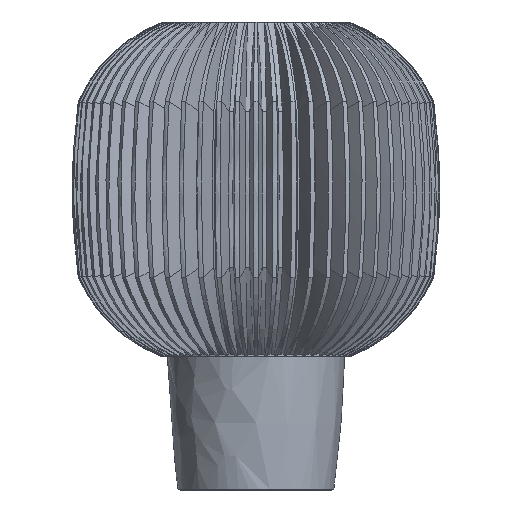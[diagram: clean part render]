
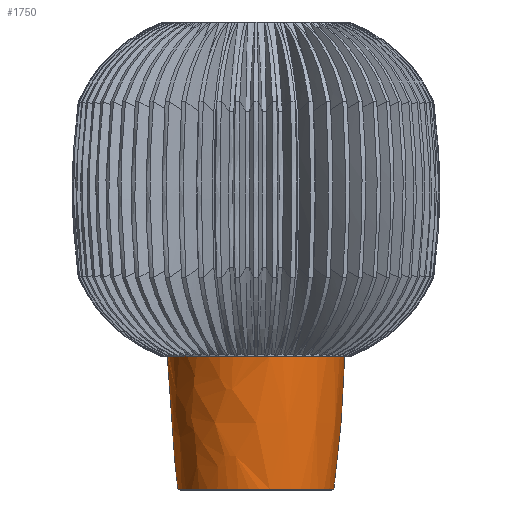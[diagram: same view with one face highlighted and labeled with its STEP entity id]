
A CAD part, front view. The second image highlights one B-rep face of the part: STEP entity #1750.
In plain terms, the highlighted free-form (B-spline) face has degree [2, 2] with [3, 5] control points.
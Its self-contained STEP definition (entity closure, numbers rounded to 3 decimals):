
#1750=ADVANCED_FACE('',(#3682),#27537,.T.);
#3682=FACE_OUTER_BOUND('',#5663,.T.);
#5663=EDGE_LOOP('',(#13746,#13747,#13748,#13749,#13750,#13751));
#13746=ORIENTED_EDGE('',*,*,#19165,.T.);
#13747=ORIENTED_EDGE('',*,*,#19159,.T.);
#13748=ORIENTED_EDGE('',*,*,#19156,.T.);
#13749=ORIENTED_EDGE('',*,*,#19158,.T.);
#13750=ORIENTED_EDGE('',*,*,#19166,.F.);
#13751=ORIENTED_EDGE('',*,*,#19164,.F.);
#19156=EDGE_CURVE('',#26856,#26857,#20153,.T.);
#19158=EDGE_CURVE('',#26857,#26855,#20154,.T.);
#19159=EDGE_CURVE('',#26854,#26856,#20155,.T.);
#19164=EDGE_CURVE('',#26860,#26861,#20159,.T.);
#19165=EDGE_CURVE('',#26860,#26854,#20160,.T.);
#19166=EDGE_CURVE('',#26861,#26855,#20161,.T.);
#20153=(
BOUNDED_CURVE()
B_SPLINE_CURVE(3,(#79256,#79257,#79258,#79259,#79260,#79261,#79262,#79263,
#79264,#79265,#79266,#79267,#79268,#79269,#79270,#79271,#79272,#79273,#79274,
#79275,#79276),.UNSPECIFIED.,.F.,.F.)
B_SPLINE_CURVE_WITH_KNOTS((4,2,3,2,3,2,3,2,4),(0.,1.766,3.53,
5.253,6.977,8.64,10.303,11.935,
13.567),.UNSPECIFIED.)
CURVE()
GEOMETRIC_REPRESENTATION_ITEM()
RATIONAL_B_SPLINE_CURVE((1.,1.,1.,1.,1.,1.,1.,1.,1.,1.,1.,1.,1.,1.,1.,1.,
1.,1.,1.,1.,1.))
REPRESENTATION_ITEM('')
);
#20154=(
BOUNDED_CURVE()
B_SPLINE_CURVE(2,(#79298,#79299,#79300),.UNSPECIFIED.,.F.,.F.)
B_SPLINE_CURVE_WITH_KNOTS((3,3),(6401.172,6412.015),
 .UNSPECIFIED.)
CURVE()
GEOMETRIC_REPRESENTATION_ITEM()
RATIONAL_B_SPLINE_CURVE((1.,1.,1.))
REPRESENTATION_ITEM('')
);
#20155=(
BOUNDED_CURVE()
B_SPLINE_CURVE(2,(#79301,#79302,#79303),.UNSPECIFIED.,.F.,.F.)
B_SPLINE_CURVE_WITH_KNOTS((3,3),(6301.927,6392.512),
 .UNSPECIFIED.)
CURVE()
GEOMETRIC_REPRESENTATION_ITEM()
RATIONAL_B_SPLINE_CURVE((1.,0.999,1.))
REPRESENTATION_ITEM('')
);
#20159=(
BOUNDED_CURVE()
B_SPLINE_CURVE(2,(#79320,#79321,#79322),.UNSPECIFIED.,.F.,.F.)
B_SPLINE_CURVE_WITH_KNOTS((3,3),(6301.927,6412.015),
 .UNSPECIFIED.)
CURVE()
GEOMETRIC_REPRESENTATION_ITEM()
RATIONAL_B_SPLINE_CURVE((1.,0.999,1.))
REPRESENTATION_ITEM('')
);
#20160=(
BOUNDED_CURVE()
B_SPLINE_CURVE(2,(#79323,#79324,#79325,#79326,#79327),.UNSPECIFIED.,.F.,
 .F.)
B_SPLINE_CURVE_WITH_KNOTS((3,2,3),(-230.737,-115.369,
0.),.UNSPECIFIED.)
CURVE()
GEOMETRIC_REPRESENTATION_ITEM()
RATIONAL_B_SPLINE_CURVE((1.,0.707,1.,0.707,
1.))
REPRESENTATION_ITEM('')
);
#20161=(
BOUNDED_CURVE()
B_SPLINE_CURVE(2,(#79328,#79329,#79330,#79331,#79332),.UNSPECIFIED.,.F.,
 .F.)
B_SPLINE_CURVE_WITH_KNOTS((3,2,3),(-230.737,-115.369,
0.),.UNSPECIFIED.)
CURVE()
GEOMETRIC_REPRESENTATION_ITEM()
RATIONAL_B_SPLINE_CURVE((1.,0.707,1.,0.707,1.))
REPRESENTATION_ITEM('')
);
#26854=VERTEX_POINT('',#79235);
#26855=VERTEX_POINT('',#79236);
#26856=VERTEX_POINT('',#79237);
#26857=VERTEX_POINT('',#79238);
#26860=VERTEX_POINT('',#79241);
#26861=VERTEX_POINT('',#79242);
#27537=(
BOUNDED_SURFACE()
B_SPLINE_SURFACE(2,2,((#79164,#79165,#79166,#79167,#79168),(#79169,#79170,
#79171,#79172,#79173),(#79174,#79175,#79176,#79177,#79178)),
 .UNSPECIFIED.,.F.,.F.,.F.)
B_SPLINE_SURFACE_WITH_KNOTS((3,3),(3,2,3),(6283.964,6412.015),
(0.,115.369,230.737),.UNSPECIFIED.)
GEOMETRIC_REPRESENTATION_ITEM()
RATIONAL_B_SPLINE_SURFACE(((1.,0.707,1.,0.707,1.),
(0.998,0.706,0.998,0.706,
0.998),(1.,0.707,1.,0.707,1.)))
REPRESENTATION_ITEM('')
SURFACE()
);
#79164=CARTESIAN_POINT('',(-73.446,0.,127.632));
#79165=CARTESIAN_POINT('',(-73.446,-73.446,127.632));
#79166=CARTESIAN_POINT('',(0.,-73.446,127.632));
#79167=CARTESIAN_POINT('',(73.446,-73.446,127.632));
#79168=CARTESIAN_POINT('',(73.446,0.,127.632));
#79169=CARTESIAN_POINT('',(-72.892,0.,63.522));
#79170=CARTESIAN_POINT('',(-72.892,-72.892,63.522));
#79171=CARTESIAN_POINT('',(0.,-72.892,63.522));
#79172=CARTESIAN_POINT('',(72.892,-72.892,63.522));
#79173=CARTESIAN_POINT('',(72.892,0.,63.522));
#79174=CARTESIAN_POINT('',(-64.22,0.,0.));
#79175=CARTESIAN_POINT('',(-64.22,-64.22,0.));
#79176=CARTESIAN_POINT('',(0.,-64.22,0.));
#79177=CARTESIAN_POINT('',(64.22,-64.22,0.));
#79178=CARTESIAN_POINT('',(64.22,0.,0.));
#79235=CARTESIAN_POINT('',(-73.131,0.,109.68));
#79236=CARTESIAN_POINT('',(-64.22,0.,0.));
#79237=CARTESIAN_POINT('',(-66.67,0.,19.341));
#79238=CARTESIAN_POINT('',(-65.628,0.,10.746));
#79241=CARTESIAN_POINT('',(73.131,0.,109.68));
#79242=CARTESIAN_POINT('',(64.22,0.,0.));
#79256=CARTESIAN_POINT('',(-66.67,0.,19.341));
#79257=CARTESIAN_POINT('',(-66.67,-0.587,19.341));
#79258=CARTESIAN_POINT('',(-66.648,-1.166,19.218));
#79259=CARTESIAN_POINT('',(-66.565,-2.236,18.745));
#79260=CARTESIAN_POINT('',(-66.506,-2.714,18.401));
#79261=CARTESIAN_POINT('',(-66.437,-3.109,17.974));
#79262=CARTESIAN_POINT('',(-66.369,-3.494,17.556));
#79263=CARTESIAN_POINT('',(-66.294,-3.792,17.065));
#79264=CARTESIAN_POINT('',(-66.142,-4.181,16.));
#79265=CARTESIAN_POINT('',(-66.068,-4.27,15.433));
#79266=CARTESIAN_POINT('',(-66.,-4.247,14.865));
#79267=CARTESIAN_POINT('',(-65.935,-4.224,14.317));
#79268=CARTESIAN_POINT('',(-65.877,-4.098,13.777));
#79269=CARTESIAN_POINT('',(-65.78,-3.649,12.771));
#79270=CARTESIAN_POINT('',(-65.741,-3.33,12.315));
#79271=CARTESIAN_POINT('',(-65.711,-2.933,11.932));
#79272=CARTESIAN_POINT('',(-65.682,-2.543,11.556));
#79273=CARTESIAN_POINT('',(-65.661,-2.085,11.258));
#79274=CARTESIAN_POINT('',(-65.634,-1.08,10.851));
#79275=CARTESIAN_POINT('',(-65.628,-0.543,10.746));
#79276=CARTESIAN_POINT('',(-65.628,0.,10.746));
#79298=CARTESIAN_POINT('',(-65.628,0.,10.746));
#79299=CARTESIAN_POINT('',(-64.953,0.,5.369));
#79300=CARTESIAN_POINT('',(-64.22,0.,0.));
#79301=CARTESIAN_POINT('',(-73.131,0.,109.68));
#79302=CARTESIAN_POINT('',(-71.932,0.,64.365));
#79303=CARTESIAN_POINT('',(-66.67,0.,19.341));
#79320=CARTESIAN_POINT('',(73.131,0.,109.68));
#79321=CARTESIAN_POINT('',(71.673,0.,54.596));
#79322=CARTESIAN_POINT('',(64.22,0.,0.));
#79323=CARTESIAN_POINT('',(73.131,0.,109.68));
#79324=CARTESIAN_POINT('',(73.131,-73.131,109.68));
#79325=CARTESIAN_POINT('',(0.,-73.131,109.68));
#79326=CARTESIAN_POINT('',(-73.131,-73.131,109.68));
#79327=CARTESIAN_POINT('',(-73.131,0.,109.68));
#79328=CARTESIAN_POINT('',(64.22,0.,0.));
#79329=CARTESIAN_POINT('',(64.22,-64.22,0.));
#79330=CARTESIAN_POINT('',(0.,-64.22,0.));
#79331=CARTESIAN_POINT('',(-64.22,-64.22,0.));
#79332=CARTESIAN_POINT('',(-64.22,0.,0.));
